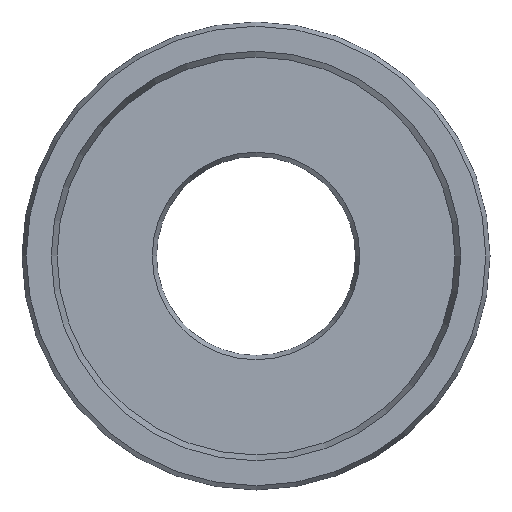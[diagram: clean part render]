
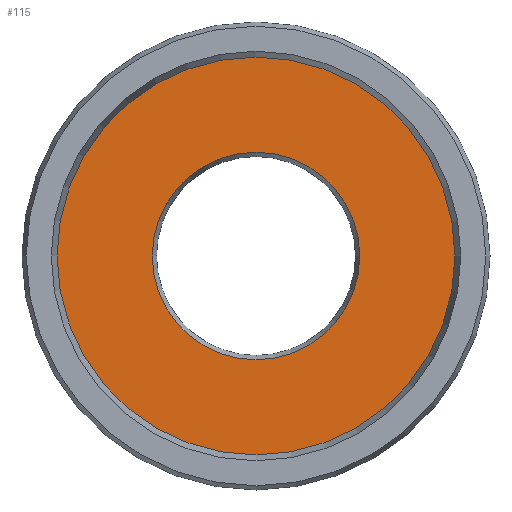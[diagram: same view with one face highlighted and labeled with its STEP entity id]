
A CAD part, left-side view. The second image highlights one B-rep face of the part: STEP entity #115.
In plain terms, the highlighted planar face has unit normal (-1, 0, 0).
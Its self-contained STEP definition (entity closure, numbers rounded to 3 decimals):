
#115=ADVANCED_FACE('',(#149,#150),#141,.F.);
#141=PLANE('',#386);
#149=FACE_BOUND('',#201,.T.);
#150=FACE_BOUND('',#202,.T.);
#201=EDGE_LOOP('',(#253));
#202=EDGE_LOOP('',(#254));
#253=ORIENTED_EDGE('',*,*,#331,.T.);
#254=ORIENTED_EDGE('',*,*,#332,.T.);
#305=VERTEX_POINT('',#544);
#306=VERTEX_POINT('',#546);
#331=EDGE_CURVE('',#305,#305,#357,.T.);
#332=EDGE_CURVE('',#306,#306,#358,.T.);
#357=CIRCLE('',#384,8.864);
#358=CIRCLE('',#385,17.);
#384=AXIS2_PLACEMENT_3D('',#543,#438,#439);
#385=AXIS2_PLACEMENT_3D('',#545,#440,#441);
#386=AXIS2_PLACEMENT_3D('',#547,#442,#443);
#438=DIRECTION('',(1.,0.,0.));
#439=DIRECTION('',(0.,0.,-1.));
#440=DIRECTION('',(-1.,0.,0.));
#441=DIRECTION('',(0.,0.,1.));
#442=DIRECTION('',(1.,0.,0.));
#443=DIRECTION('',(0.,0.,-1.));
#543=CARTESIAN_POINT('',(0.,0.,0.));
#544=CARTESIAN_POINT('',(0.,0.,-8.864));
#545=CARTESIAN_POINT('',(0.,0.,0.));
#546=CARTESIAN_POINT('',(0.,0.,17.));
#547=CARTESIAN_POINT('',(0.,17.,0.));
